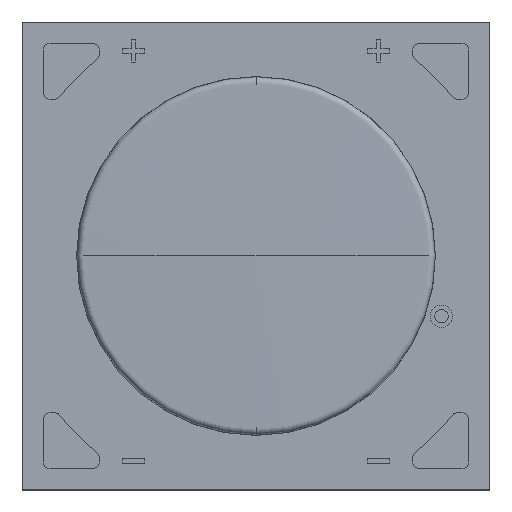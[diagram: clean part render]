
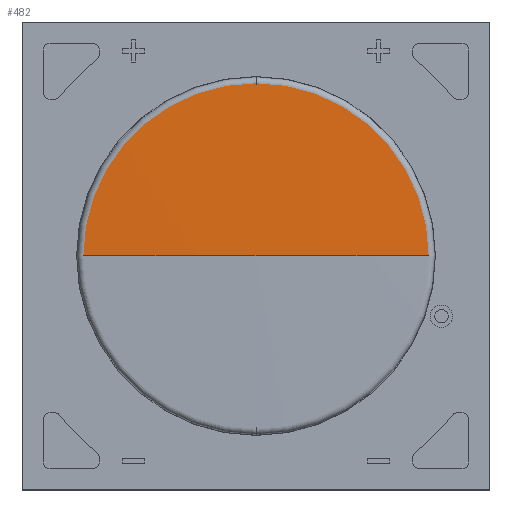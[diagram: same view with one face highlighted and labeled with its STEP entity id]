
A CAD part, top view. The second image highlights one B-rep face of the part: STEP entity #482.
In plain terms, the highlighted spherical face has radius 300.363 mm.
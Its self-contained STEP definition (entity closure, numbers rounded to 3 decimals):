
#338 = EDGE_CURVE ( 'NONE', #5255, #6544, #6726, .T. ) ;
#344 = ORIENTED_EDGE ( 'NONE', *, *, #4290, .T. ) ;
#471 = CARTESIAN_POINT ( 'NONE',  ( 7.75, 0.846, 0. ) ) ;
#482 = ADVANCED_FACE ( 'NONE', ( #3930 ), #2034, .T. ) ;
#561 = CARTESIAN_POINT ( 'NONE',  ( 0., 0.846, -7.75 ) ) ;
#585 = AXIS2_PLACEMENT_3D ( 'NONE', #5946, #7317, #923 ) ;
#742 = CIRCLE ( 'NONE', #585, 7.75 ) ;
#814 = AXIS2_PLACEMENT_3D ( 'NONE', #2986, #1396, #1311 ) ;
#923 = DIRECTION ( 'NONE',  ( 0., 0., -1. ) ) ;
#993 = CARTESIAN_POINT ( 'NONE',  ( 0., -299.416, 0. ) ) ;
#1123 = CARTESIAN_POINT ( 'NONE',  ( 0., -299.416, 0. ) ) ;
#1311 = DIRECTION ( 'NONE',  ( 1., 0., 0. ) ) ;
#1396 = DIRECTION ( 'NONE',  ( 0., 0., 1. ) ) ;
#1470 = EDGE_LOOP ( 'NONE', ( #4528, #344, #6886, #7663 ) ) ;
#2034 = SPHERICAL_SURFACE ( 'NONE', #814, 300.362 ) ;
#2453 = DIRECTION ( 'NONE',  ( 1., 0., 0. ) ) ;
#2505 = DIRECTION ( 'NONE',  ( 0., 0., -1. ) ) ;
#2926 = DIRECTION ( 'NONE',  ( 0., 0., -1. ) ) ;
#2986 = CARTESIAN_POINT ( 'NONE',  ( 0., -299.416, 0. ) ) ;
#3084 = DIRECTION ( 'NONE',  ( 0., -1., 0. ) ) ;
#3678 = DIRECTION ( 'NONE',  ( 0., 0., 1. ) ) ;
#3722 = CARTESIAN_POINT ( 'NONE',  ( 0., 0.846, 0. ) ) ;
#3930 = FACE_OUTER_BOUND ( 'NONE', #1470, .T. ) ;
#4251 = AXIS2_PLACEMENT_3D ( 'NONE', #3722, #3084, #2505 ) ;
#4269 = CIRCLE ( 'NONE', #4303, 300.362 ) ;
#4290 = EDGE_CURVE ( 'NONE', #5255, #6070, #4269, .T. ) ;
#4303 = AXIS2_PLACEMENT_3D ( 'NONE', #1123, #2926, #7110 ) ;
#4528 = ORIENTED_EDGE ( 'NONE', *, *, #338, .F. ) ;
#4688 = EDGE_CURVE ( 'NONE', #5527, #6070, #742, .T. ) ;
#5255 = VERTEX_POINT ( 'NONE', #7337 ) ;
#5527 = VERTEX_POINT ( 'NONE', #561 ) ;
#5946 = CARTESIAN_POINT ( 'NONE',  ( 0., 0.846, 0. ) ) ;
#6013 = AXIS2_PLACEMENT_3D ( 'NONE', #993, #3678, #2453 ) ;
#6070 = VERTEX_POINT ( 'NONE', #471 ) ;
#6544 = VERTEX_POINT ( 'NONE', #7034 ) ;
#6726 = CIRCLE ( 'NONE', #6013, 300.362 ) ;
#6886 = ORIENTED_EDGE ( 'NONE', *, *, #4688, .F. ) ;
#7034 = CARTESIAN_POINT ( 'NONE',  ( -7.75, 0.846, 0. ) ) ;
#7095 = EDGE_CURVE ( 'NONE', #6544, #5527, #7355, .T. ) ;
#7110 = DIRECTION ( 'NONE',  ( -1., 0., 0. ) ) ;
#7317 = DIRECTION ( 'NONE',  ( 0., -1., 0. ) ) ;
#7337 = CARTESIAN_POINT ( 'NONE',  ( 0., 0.946, 0. ) ) ;
#7355 = CIRCLE ( 'NONE', #4251, 7.75 ) ;
#7663 = ORIENTED_EDGE ( 'NONE', *, *, #7095, .F. ) ;
